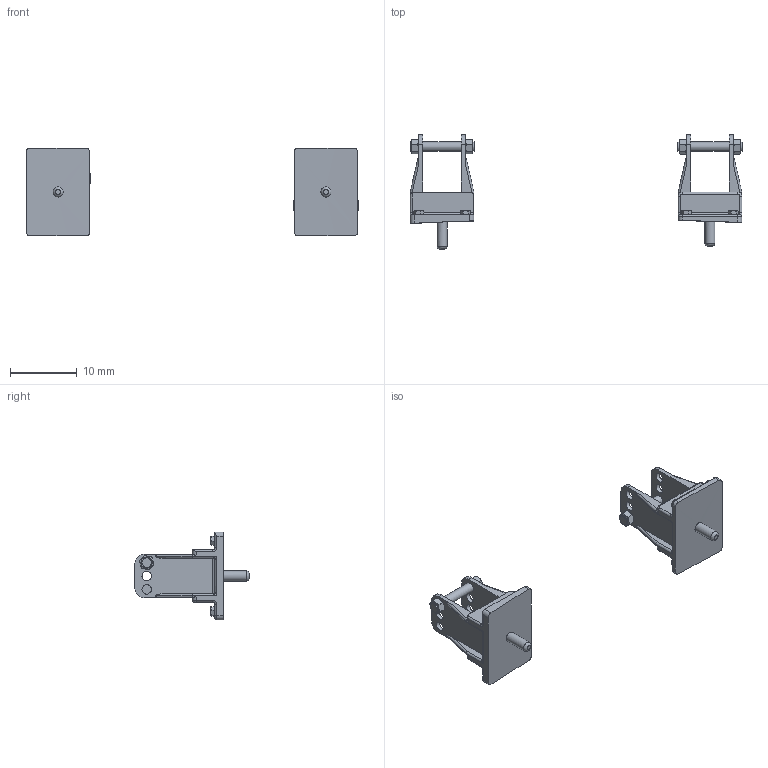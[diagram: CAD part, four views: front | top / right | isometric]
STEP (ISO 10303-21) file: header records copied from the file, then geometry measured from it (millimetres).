
FILE_DESCRIPTION(/* description */ ('','CAx-IF Rec.Pracs.---Representation and Presentation of Product Manufacturing Information (PMI)---4.0---2014-10-13'),/* implementation_level */ '2;1');
FILE_NAME(/* name */ 'Elco Radar Mastfeet.step',/* time_stamp */ '2025-03-06T21:19:56+11:00',/* author */ (''),/* organization */ (''),/* preprocessor_version */ 'ST-DEVELOPER v20',/* originating_system */ 'Autodesk Translation Framework v13.20.0.188',/* authorisation */ '');
FILE_SCHEMA (('AP242_MANAGED_MODEL_BASED_3D_ENGINEERING_MIM_LF { 1 0 10303 442 1 1 4 }'));
Length unit declared in the file: millimetre
Products named in the file (2): Elco Radar Mast solid; Component1
Assembly tree (1 placements, depth 2):
  Elco Radar Mast solid
    Component1
Bounding box: 49.56 x 17.05 x 13.11 mm (x, y, z)
Volume: 619 mm3; surface area: 1653.9 mm2
Topology: 2 solids, 2 shells, 337 faces, 866 edges, 545 vertices
Faces by surface type: plane 161, cylinder 133, torus 29, bspline 14
Full cylindrical faces by diameter (mm): 1.4 x14, 1.5 x2
Entity records: 11911 total; most frequent: CARTESIAN_POINT 3732, ORIENTED_EDGE 1720, DIRECTION 1665, EDGE_CURVE 860, AXIS2_PLACEMENT_3D 611, VERTEX_POINT 545, LINE 443, VECTOR 443
